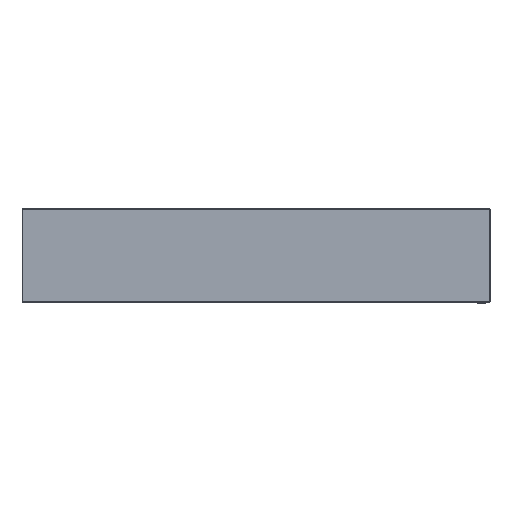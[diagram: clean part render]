
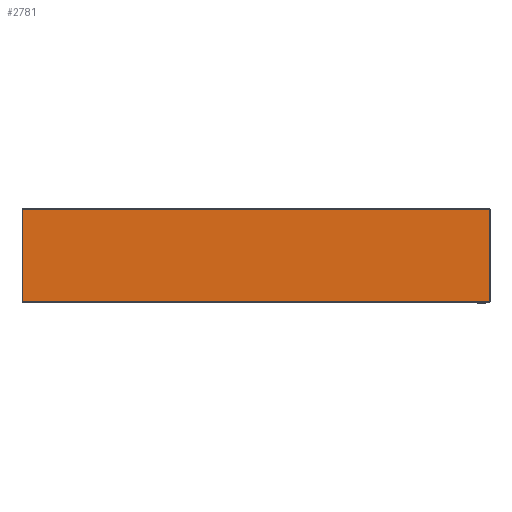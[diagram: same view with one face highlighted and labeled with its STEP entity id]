
A CAD part, top view. The second image highlights one B-rep face of the part: STEP entity #2781.
In plain terms, the highlighted planar face has unit normal (0, 0, 1).
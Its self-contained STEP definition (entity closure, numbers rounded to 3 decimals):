
#435=FACE_OUTER_BOUND('',#609,.T.);
#609=EDGE_LOOP('',(#2052,#2053,#2054,#2055));
#806=LINE('',#4268,#1049);
#825=LINE('',#4314,#1068);
#846=LINE('',#4364,#1089);
#858=LINE('',#4391,#1101);
#1049=VECTOR('',#3374,10.);
#1068=VECTOR('',#3421,10.);
#1089=VECTOR('',#3472,10.);
#1101=VECTOR('',#3508,10.);
#1291=VERTEX_POINT('',#4265);
#1292=VERTEX_POINT('',#4267);
#1305=VERTEX_POINT('',#4313);
#1319=VERTEX_POINT('',#4363);
#1535=EDGE_CURVE('',#1292,#1291,#806,.T.);
#1558=EDGE_CURVE('',#1305,#1292,#825,.T.);
#1583=EDGE_CURVE('',#1319,#1305,#846,.T.);
#1598=EDGE_CURVE('',#1319,#1291,#858,.T.);
#2052=ORIENTED_EDGE('',*,*,#1535,.T.);
#2053=ORIENTED_EDGE('',*,*,#1598,.F.);
#2054=ORIENTED_EDGE('',*,*,#1583,.T.);
#2055=ORIENTED_EDGE('',*,*,#1558,.T.);
#2664=PLANE('',#3066);
#2781=ADVANCED_FACE('',(#435),#2664,.T.);
#3066=AXIS2_PLACEMENT_3D('',#4393,#3511,#3512);
#3374=DIRECTION('',(0.,1.,0.));
#3421=DIRECTION('',(1.,0.,0.));
#3472=DIRECTION('',(0.,-1.,0.));
#3508=DIRECTION('',(1.,0.,0.));
#3511=DIRECTION('center_axis',(0.,0.,1.));
#3512=DIRECTION('ref_axis',(1.,0.,0.));
#4265=CARTESIAN_POINT('',(66.9,750.,0.8));
#4267=CARTESIAN_POINT('',(66.9,-750.4,0.8));
#4268=CARTESIAN_POINT('',(66.9,-375.7,0.8));
#4313=CARTESIAN_POINT('',(-229.9,-750.4,0.8));
#4314=CARTESIAN_POINT('',(-155.7,-750.4,0.8));
#4363=CARTESIAN_POINT('',(-229.9,750.,0.8));
#4364=CARTESIAN_POINT('',(-229.9,374.5,0.8));
#4391=CARTESIAN_POINT('',(68.5,750.,0.8));
#4393=CARTESIAN_POINT('Origin',(-81.5,-1.,0.8));
